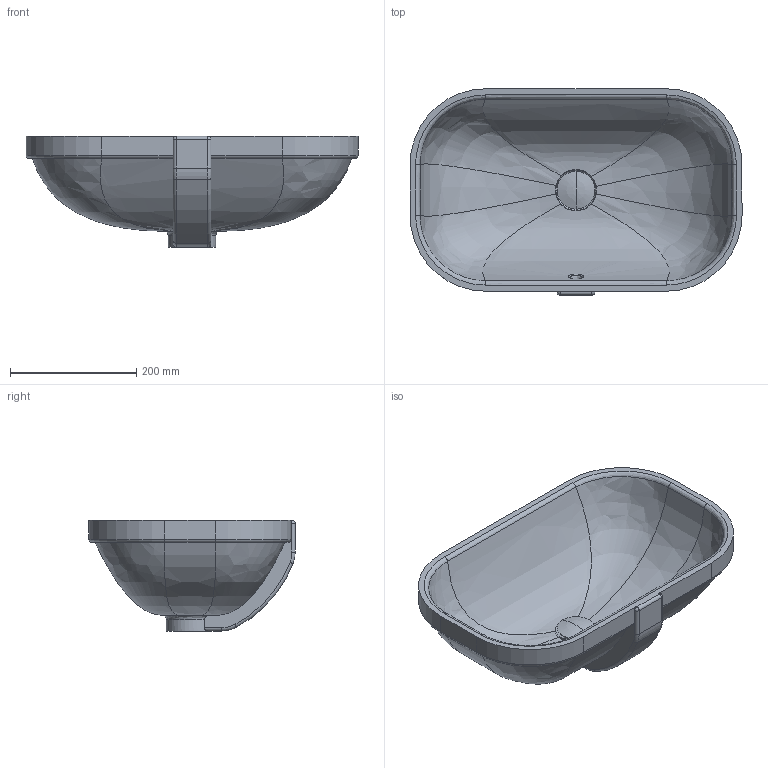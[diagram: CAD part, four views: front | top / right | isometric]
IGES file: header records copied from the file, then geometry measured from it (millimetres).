
Global section: file name: No Iges File Name specified; native system: AutoDesk Inventor R11.0; preprocessor: AutoDesk Inventor Iges Exporter R11.0; author: No Author specified; organization: No Organization specified; date: 20071024.201047; units: millimetre
Bounding box: 525 x 326.25 x 176 mm (x, y, z)
Volume: 3475810.7 mm3; surface area: 560052 mm2
Topology: 3 solids, 3 shells, 124 faces, 310 edges, 190 vertices
Faces by surface type: bspline 39, cylinder 32, plane 27, torus 14, revolution 8, sphere 2, cone 2
